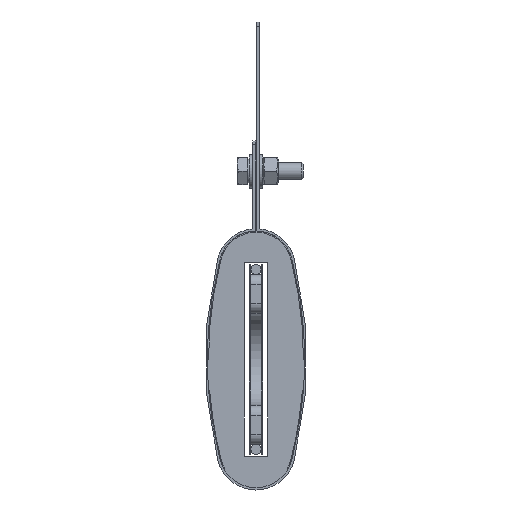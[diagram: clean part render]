
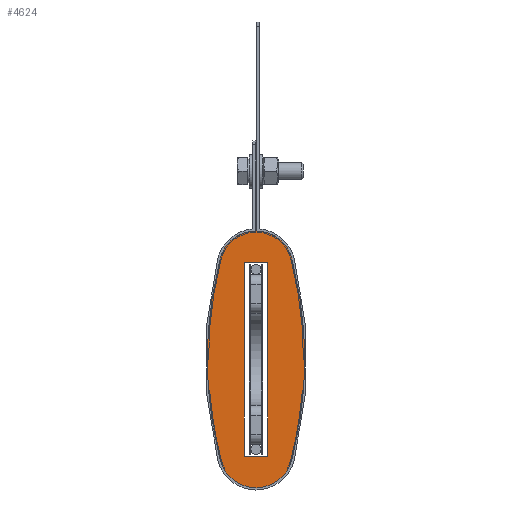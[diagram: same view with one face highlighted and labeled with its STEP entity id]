
A CAD part, front view. The second image highlights one B-rep face of the part: STEP entity #4624.
In plain terms, the highlighted planar face has unit normal (0, -1, 0).
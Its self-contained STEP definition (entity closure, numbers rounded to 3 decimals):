
#146=FACE_BOUND($,#794,.T.);
#147=FACE_BOUND($,#795,.T.);
#148=FACE_BOUND($,#796,.T.);
#149=FACE_BOUND($,#797,.T.);
#150=FACE_BOUND($,#798,.T.);
#272=PLANE($,#5096);
#794=EDGE_LOOP($,(#3765,#3766,#3767,#3768,#3769,#3770));
#795=EDGE_LOOP($,(#3771,#3772,#3773,#3774));
#796=EDGE_LOOP($,(#3775,#3776,#3777,#3778));
#797=EDGE_LOOP($,(#3779,#3780,#3781,#3782));
#798=EDGE_LOOP($,(#3783,#3784,#3785,#3786));
#1157=LINE($,#7529,#1475);
#1161=LINE($,#7537,#1479);
#1164=LINE($,#7543,#1482);
#1167=LINE($,#7548,#1485);
#1475=VECTOR($,#6255,57.);
#1479=VECTOR($,#6261,7.);
#1482=VECTOR($,#6266,57.);
#1485=VECTOR($,#6271,7.);
#1562=CIRCLE($,#4814,119.768);
#1564=CIRCLE($,#4817,119.768);
#1569=CIRCLE($,#4823,10.644);
#1576=CIRCLE($,#4831,10.644);
#1578=CIRCLE($,#4834,10.644);
#1583=CIRCLE($,#4842,119.768);
#1586=CIRCLE($,#4846,119.768);
#1594=CIRCLE($,#4858,120.068);
#1600=CIRCLE($,#4867,10.944);
#1606=CIRCLE($,#4876,120.068);
#1617=CIRCLE($,#4890,10.944);
#1635=CIRCLE($,#4916,119.315);
#1637=CIRCLE($,#4919,10.625);
#1640=CIRCLE($,#4923,119.315);
#1641=CIRCLE($,#4925,119.315);
#1732=CIRCLE($,#5086,10.625);
#1733=CIRCLE($,#5088,10.625);
#1734=CIRCLE($,#5090,119.315);
#1915=VERTEX_POINT($,#6975);
#1916=VERTEX_POINT($,#6977);
#1918=VERTEX_POINT($,#6982);
#1920=VERTEX_POINT($,#6986);
#1925=VERTEX_POINT($,#7000);
#1936=VERTEX_POINT($,#7023);
#1938=VERTEX_POINT($,#7027);
#1940=VERTEX_POINT($,#7033);
#1947=VERTEX_POINT($,#7052);
#1950=VERTEX_POINT($,#7060);
#1959=VERTEX_POINT($,#7085);
#1960=VERTEX_POINT($,#7087);
#1970=VERTEX_POINT($,#7111);
#1976=VERTEX_POINT($,#7129);
#2001=VERTEX_POINT($,#7207);
#2003=VERTEX_POINT($,#7213);
#2005=VERTEX_POINT($,#7222);
#2096=VERTEX_POINT($,#7519);
#2097=VERTEX_POINT($,#7527);
#2098=VERTEX_POINT($,#7528);
#2101=VERTEX_POINT($,#7536);
#2103=VERTEX_POINT($,#7542);
#2401=EDGE_CURVE($,#1916,#1915,#1562,.T.);
#2406=EDGE_CURVE($,#1918,#1920,#1564,.T.);
#2413=EDGE_CURVE($,#1925,#1916,#1569,.T.);
#2427=EDGE_CURVE($,#1936,#1938,#1576,.T.);
#2430=EDGE_CURVE($,#1920,#1940,#1578,.T.);
#2439=EDGE_CURVE($,#1938,#1947,#1583,.T.);
#2442=EDGE_CURVE($,#1950,#1925,#1586,.T.);
#2455=EDGE_CURVE($,#1960,#1959,#1594,.T.);
#2466=EDGE_CURVE($,#1970,#1960,#1600,.T.);
#2475=EDGE_CURVE($,#1976,#1970,#1606,.T.);
#2491=EDGE_CURVE($,#1959,#1976,#1617,.T.);
#2517=EDGE_CURVE($,#1918,#2001,#1635,.T.);
#2520=EDGE_CURVE($,#1936,#2003,#1637,.T.);
#2524=EDGE_CURVE($,#2003,#1947,#1640,.T.);
#2525=EDGE_CURVE($,#1950,#2005,#1641,.T.);
#2661=EDGE_CURVE($,#2005,#2096,#1732,.T.);
#2663=EDGE_CURVE($,#2001,#1940,#1733,.T.);
#2664=EDGE_CURVE($,#2096,#1915,#1734,.T.);
#2665=EDGE_CURVE($,#2097,#2098,#1157,.T.);
#2669=EDGE_CURVE($,#2098,#2101,#1161,.T.);
#2672=EDGE_CURVE($,#2101,#2103,#1164,.T.);
#2675=EDGE_CURVE($,#2103,#2097,#1167,.T.);
#3765=ORIENTED_EDGE($,*,*,#2664,.F.);
#3766=ORIENTED_EDGE($,*,*,#2661,.F.);
#3767=ORIENTED_EDGE($,*,*,#2525,.F.);
#3768=ORIENTED_EDGE($,*,*,#2442,.T.);
#3769=ORIENTED_EDGE($,*,*,#2413,.T.);
#3770=ORIENTED_EDGE($,*,*,#2401,.T.);
#3771=ORIENTED_EDGE($,*,*,#2406,.T.);
#3772=ORIENTED_EDGE($,*,*,#2430,.T.);
#3773=ORIENTED_EDGE($,*,*,#2663,.F.);
#3774=ORIENTED_EDGE($,*,*,#2517,.F.);
#3775=ORIENTED_EDGE($,*,*,#2466,.T.);
#3776=ORIENTED_EDGE($,*,*,#2455,.T.);
#3777=ORIENTED_EDGE($,*,*,#2491,.T.);
#3778=ORIENTED_EDGE($,*,*,#2475,.T.);
#3779=ORIENTED_EDGE($,*,*,#2427,.T.);
#3780=ORIENTED_EDGE($,*,*,#2439,.T.);
#3781=ORIENTED_EDGE($,*,*,#2524,.F.);
#3782=ORIENTED_EDGE($,*,*,#2520,.F.);
#3783=ORIENTED_EDGE($,*,*,#2665,.T.);
#3784=ORIENTED_EDGE($,*,*,#2669,.T.);
#3785=ORIENTED_EDGE($,*,*,#2672,.T.);
#3786=ORIENTED_EDGE($,*,*,#2675,.T.);
#4624=ADVANCED_FACE($,(#146,#147,#148,#149,#150),#272,.F.);
#4814=AXIS2_PLACEMENT_3D($,#6978,#5608,#5609);
#4817=AXIS2_PLACEMENT_3D($,#6988,#5617,#5618);
#4823=AXIS2_PLACEMENT_3D($,#7001,#5631,#5632);
#4831=AXIS2_PLACEMENT_3D($,#7029,#5654,#5655);
#4834=AXIS2_PLACEMENT_3D($,#7035,#5661,#5662);
#4842=AXIS2_PLACEMENT_3D($,#7055,#5681,#5682);
#4846=AXIS2_PLACEMENT_3D($,#7061,#5689,#5690);
#4858=AXIS2_PLACEMENT_3D($,#7088,#5718,#5719);
#4867=AXIS2_PLACEMENT_3D($,#7112,#5741,#5742);
#4876=AXIS2_PLACEMENT_3D($,#7130,#5762,#5763);
#4890=AXIS2_PLACEMENT_3D($,#7158,#5795,#5796);
#4916=AXIS2_PLACEMENT_3D($,#7208,#5855,#5856);
#4919=AXIS2_PLACEMENT_3D($,#7214,#5862,#5863);
#4923=AXIS2_PLACEMENT_3D($,#7220,#5871,#5872);
#4925=AXIS2_PLACEMENT_3D($,#7223,#5875,#5876);
#5086=AXIS2_PLACEMENT_3D($,#7520,#6242,#6243);
#5088=AXIS2_PLACEMENT_3D($,#7523,#6247,#6248);
#5090=AXIS2_PLACEMENT_3D($,#7525,#6251,#6252);
#5096=AXIS2_PLACEMENT_3D($,#7551,#6275,#6276);
#5608=DIRECTION('center_axis',(0.,1.,0.));
#5609=DIRECTION('ref_axis',(0.969,0.,0.246));
#5617=DIRECTION('center_axis',(0.,1.,0.));
#5618=DIRECTION('ref_axis',(0.969,0.,0.246));
#5631=DIRECTION('center_axis',(0.,1.,0.));
#5632=DIRECTION('ref_axis',(-0.969,0.,0.246));
#5654=DIRECTION('center_axis',(0.,1.,0.));
#5655=DIRECTION('ref_axis',(0.969,0.,-0.246));
#5661=DIRECTION('center_axis',(0.,1.,0.));
#5662=DIRECTION('ref_axis',(0.969,0.,-0.246));
#5681=DIRECTION('center_axis',(0.,1.,0.));
#5682=DIRECTION('ref_axis',(-0.969,0.,-0.246));
#5689=DIRECTION('center_axis',(0.,1.,0.));
#5690=DIRECTION('ref_axis',(-0.969,0.,-0.246));
#5718=DIRECTION('center_axis',(0.,-1.,0.));
#5719=DIRECTION('ref_axis',(0.969,0.,0.246));
#5741=DIRECTION('center_axis',(0.,-1.,0.));
#5742=DIRECTION('ref_axis',(0.969,0.,-0.246));
#5762=DIRECTION('center_axis',(0.,-1.,0.));
#5763=DIRECTION('ref_axis',(-0.969,0.,-0.246));
#5795=DIRECTION('center_axis',(0.,-1.,0.));
#5796=DIRECTION('ref_axis',(-0.969,0.,0.246));
#5855=DIRECTION('center_axis',(0.,1.,0.));
#5856=DIRECTION('ref_axis',(0.969,0.,-0.247));
#5862=DIRECTION('center_axis',(0.,1.,0.));
#5863=DIRECTION('ref_axis',(-0.969,0.,-0.247));
#5871=DIRECTION('center_axis',(0.,1.,0.));
#5872=DIRECTION('ref_axis',(-0.969,0.,0.247));
#5875=DIRECTION('center_axis',(0.,1.,0.));
#5876=DIRECTION('ref_axis',(-0.969,0.,0.247));
#6242=DIRECTION('center_axis',(0.,1.,0.));
#6243=DIRECTION('ref_axis',(0.969,0.,0.247));
#6247=DIRECTION('center_axis',(0.,1.,0.));
#6248=DIRECTION('ref_axis',(-0.969,0.,-0.247));
#6251=DIRECTION('center_axis',(0.,1.,0.));
#6252=DIRECTION('ref_axis',(0.969,0.,-0.247));
#6255=DIRECTION($,(0.,0.,1.));
#6261=DIRECTION($,(1.,0.,0.));
#6266=DIRECTION($,(0.,0.,-1.));
#6271=DIRECTION($,(-1.,0.,0.));
#6275=DIRECTION('center_axis',(0.,1.,0.));
#6276=DIRECTION('ref_axis',(0.,0.,1.));
#6975=CARTESIAN_POINT('',(-40.5,-297.5,-21.491));
#6977=CARTESIAN_POINT('',(-44.184,-297.5,7.994));
#6978=CARTESIAN_POINT('Origin',(-160.268,-297.5,-21.481));
#6982=CARTESIAN_POINT('',(-40.902,-297.5,-31.282));
#6986=CARTESIAN_POINT('',(-44.184,-297.5,-50.957));
#6988=CARTESIAN_POINT('Origin',(-160.268,-297.5,-21.481));
#7000=CARTESIAN_POINT('',(-64.816,-297.5,7.994));
#7001=CARTESIAN_POINT('Origin',(-54.5,-297.5,5.375));
#7023=CARTESIAN_POINT('',(-63.71,-297.5,-53.674));
#7027=CARTESIAN_POINT('',(-64.816,-297.5,-50.957));
#7029=CARTESIAN_POINT('Origin',(-54.5,-297.5,-48.338));
#7033=CARTESIAN_POINT('',(-45.29,-297.5,-53.674));
#7035=CARTESIAN_POINT('Origin',(-54.5,-297.5,-48.338));
#7052=CARTESIAN_POINT('',(-68.098,-297.5,-31.286));
#7055=CARTESIAN_POINT('Origin',(51.268,-297.5,-21.481));
#7060=CARTESIAN_POINT('',(-68.5,-297.5,-21.487));
#7061=CARTESIAN_POINT('Origin',(51.268,-297.5,-21.481));
#7085=CARTESIAN_POINT('',(-43.893,-297.5,8.068));
#7087=CARTESIAN_POINT('',(-43.893,-297.5,-51.031));
#7088=CARTESIAN_POINT('Origin',(-160.268,-297.5,-21.481));
#7111=CARTESIAN_POINT('',(-65.107,-297.5,-51.031));
#7112=CARTESIAN_POINT('Origin',(-54.5,-297.5,-48.338));
#7129=CARTESIAN_POINT('',(-65.107,-297.5,8.068));
#7130=CARTESIAN_POINT('Origin',(51.268,-297.5,-21.481));
#7158=CARTESIAN_POINT('Origin',(-54.5,-297.5,5.375));
#7207=CARTESIAN_POINT('',(-44.205,-297.5,-51.002));
#7208=CARTESIAN_POINT('Origin',(-159.815,-297.5,-21.5));
#7213=CARTESIAN_POINT('',(-64.795,-297.5,-51.002));
#7214=CARTESIAN_POINT('Origin',(-54.5,-297.5,-48.375));
#7220=CARTESIAN_POINT('Origin',(50.815,-297.5,-21.5));
#7222=CARTESIAN_POINT('',(-64.795,-297.5,8.002));
#7223=CARTESIAN_POINT('Origin',(50.815,-297.5,-21.5));
#7519=CARTESIAN_POINT('',(-44.205,-297.5,8.002));
#7520=CARTESIAN_POINT('Origin',(-54.5,-297.5,5.375));
#7523=CARTESIAN_POINT('Origin',(-54.5,-297.5,-48.375));
#7525=CARTESIAN_POINT('Origin',(-159.815,-297.5,-21.5));
#7527=CARTESIAN_POINT('',(-58.,-297.5,-50.));
#7528=CARTESIAN_POINT('',(-58.,-297.5,7.));
#7529=CARTESIAN_POINT($,(-58.,-297.5,-35.75));
#7536=CARTESIAN_POINT('',(-51.,-297.5,7.));
#7537=CARTESIAN_POINT($,(-56.25,-297.5,7.));
#7542=CARTESIAN_POINT('',(-51.,-297.5,-50.));
#7543=CARTESIAN_POINT($,(-51.,-297.5,-7.25));
#7548=CARTESIAN_POINT($,(-52.75,-297.5,-50.));
#7551=CARTESIAN_POINT('Origin',(-54.5,-297.5,-21.5));
